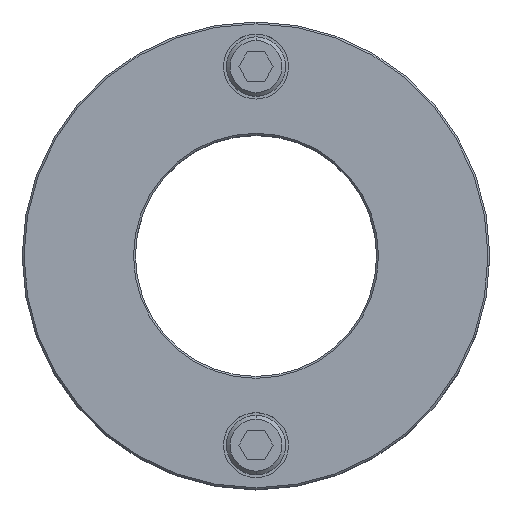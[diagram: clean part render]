
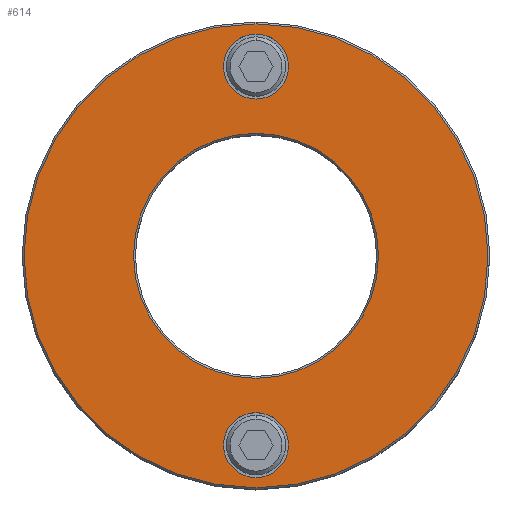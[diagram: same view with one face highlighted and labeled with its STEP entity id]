
A CAD part, top view. The second image highlights one B-rep face of the part: STEP entity #614.
In plain terms, the highlighted planar face has unit normal (0, 0, 1).
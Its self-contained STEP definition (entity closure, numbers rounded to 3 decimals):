
#105=VERTEX_POINT(' ',#106);
#106=CARTESIAN_POINT('',(0.,42.25,55.));
#107=VERTEX_POINT(' ',#108);
#108=CARTESIAN_POINT('',(0.,59.75,55.));
#113=VERTEX_POINT(' ',#114);
#114=CARTESIAN_POINT('',(0.,-59.75,55.));
#115=VERTEX_POINT(' ',#116);
#116=CARTESIAN_POINT('',(0.,-42.25,55.));
#123=VERTEX_POINT(' ',#124);
#124=CARTESIAN_POINT('',(0.,62.5,55.));
#125=VERTEX_POINT(' ',#126);
#126=CARTESIAN_POINT('',(0.,-62.5,55.));
#129=VERTEX_POINT(' ',#130);
#130=CARTESIAN_POINT('',(0.,-33.,55.));
#131=VERTEX_POINT(' ',#132);
#132=CARTESIAN_POINT('',(0.,33.,55.));
#221=CIRCLE('',#222,8.75);
#222=AXIS2_PLACEMENT_3D('',#223,#224,#225);
#223=CARTESIAN_POINT('',(0.,51.,55.));
#224=DIRECTION('',(0.,0.,-1.));
#225=DIRECTION('',(-1.,0.,0.));
#226=EDGE_CURVE(' ',#105,#107,#221,.F.);
#243=CIRCLE('',#244,8.75);
#244=AXIS2_PLACEMENT_3D('',#245,#246,#247);
#245=CARTESIAN_POINT('',(0.,51.,55.));
#246=DIRECTION('',(0.,0.,-1.));
#247=DIRECTION('',(1.,0.,0.));
#248=EDGE_CURVE(' ',#107,#105,#243,.F.);
#255=CIRCLE('',#256,8.75);
#256=AXIS2_PLACEMENT_3D('',#257,#258,#259);
#257=CARTESIAN_POINT('',(0.,-51.,55.));
#258=DIRECTION('',(0.,0.,-1.));
#259=DIRECTION('',(-1.,0.,0.));
#260=EDGE_CURVE(' ',#113,#115,#255,.F.);
#277=CIRCLE('',#278,8.75);
#278=AXIS2_PLACEMENT_3D('',#279,#280,#281);
#279=CARTESIAN_POINT('',(0.,-51.,55.));
#280=DIRECTION('',(0.,0.,-1.));
#281=DIRECTION('',(1.,0.,0.));
#282=EDGE_CURVE(' ',#115,#113,#277,.F.);
#294=CIRCLE('',#295,62.5);
#295=AXIS2_PLACEMENT_3D('',#296,#297,#298);
#296=CARTESIAN_POINT('',(0.,0.,55.));
#297=DIRECTION('',(0.,0.,1.));
#298=DIRECTION('',(-1.,0.,0.));
#299=EDGE_CURVE(' ',#123,#125,#294,.F.);
#317=CIRCLE('',#318,62.5);
#318=AXIS2_PLACEMENT_3D('',#319,#320,#321);
#319=CARTESIAN_POINT('',(0.,0.,55.));
#320=DIRECTION('',(0.,0.,1.));
#321=DIRECTION('',(1.,0.,0.));
#322=EDGE_CURVE(' ',#125,#123,#317,.F.);
#323=CIRCLE('',#324,33.);
#324=AXIS2_PLACEMENT_3D('',#325,#326,#327);
#325=CARTESIAN_POINT('',(0.,0.,55.));
#326=DIRECTION('',(0.,0.,-1.));
#327=DIRECTION('',(1.,0.,0.));
#328=EDGE_CURVE(' ',#131,#129,#323,.F.);
#329=CIRCLE('',#330,33.);
#330=AXIS2_PLACEMENT_3D('',#331,#332,#333);
#331=CARTESIAN_POINT('',(0.,0.,55.));
#332=DIRECTION('',(0.,0.,-1.));
#333=DIRECTION('',(-1.,0.,0.));
#334=EDGE_CURVE(' ',#129,#131,#329,.F.);
#593=ORIENTED_EDGE('',*,*,#299,.F.);
#594=ORIENTED_EDGE('',*,*,#322,.F.);
#595=EDGE_LOOP('',(#593,#594));
#596=FACE_OUTER_BOUND('',#595,.T.);
#597=ORIENTED_EDGE('',*,*,#328,.F.);
#598=ORIENTED_EDGE('',*,*,#334,.F.);
#599=EDGE_LOOP('',(#597,#598));
#600=FACE_BOUND('',#599,.T.);
#601=ORIENTED_EDGE('',*,*,#282,.F.);
#602=ORIENTED_EDGE('',*,*,#260,.F.);
#603=EDGE_LOOP('',(#601,#602));
#604=FACE_BOUND('',#603,.T.);
#605=ORIENTED_EDGE('',*,*,#248,.F.);
#606=ORIENTED_EDGE('',*,*,#226,.F.);
#607=EDGE_LOOP('',(#605,#606));
#608=FACE_BOUND('',#607,.T.);
#609=PLANE('',#610);
#610=AXIS2_PLACEMENT_3D('',#611,#612,#613);
#611=CARTESIAN_POINT('',(63.,0.,55.));
#612=DIRECTION('',(0.,0.,1.));
#613=DIRECTION('',(0.,1.,0.));
#614=ADVANCED_FACE('',(#596,#600,#604,#608),#609,.T.);
